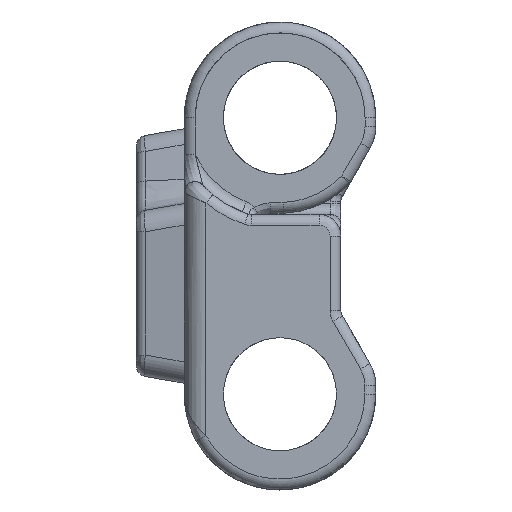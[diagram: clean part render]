
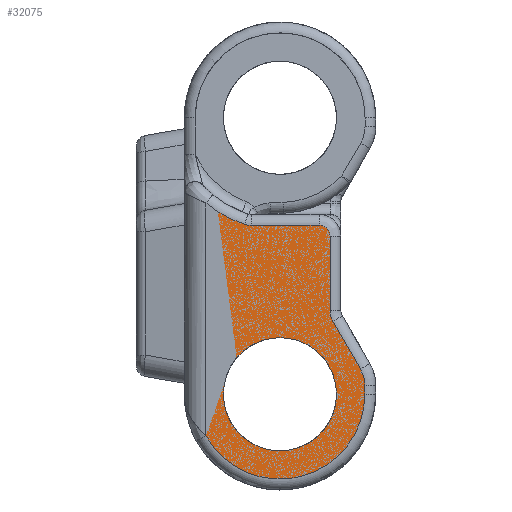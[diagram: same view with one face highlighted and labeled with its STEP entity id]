
A CAD part, left-side view. The second image highlights one B-rep face of the part: STEP entity #32075.
In plain terms, the highlighted planar face has unit normal (-1, 0, 0).
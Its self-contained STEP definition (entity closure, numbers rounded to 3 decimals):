
#15=CARTESIAN_POINT('',(0.,6.35,0.));
#16=DIRECTION('',(1.,0.,0.));
#17=DIRECTION('',(0.,0.,-1.));
#18=AXIS2_PLACEMENT_3D('',#15,#16,#17);
#20=CARTESIAN_POINT('',(0.,-6.501,0.));
#21=DIRECTION('',(-1.,0.,0.));
#22=DIRECTION('',(0.,0.767,0.642));
#23=AXIS2_PLACEMENT_3D('',#20,#21,#22);
#25=CARTESIAN_POINT('',(0.,-2.41,1.323));
#26=DIRECTION('',(-1.,0.,0.));
#27=DIRECTION('',(0.,0.951,0.308));
#28=AXIS2_PLACEMENT_3D('',#25,#26,#27);
#30=CARTESIAN_POINT('',(0.,-0.91,-1.8));
#31=DIRECTION('',(1.,0.,0.));
#32=DIRECTION('',(0.,-1.,0.));
#33=AXIS2_PLACEMENT_3D('',#30,#31,#32);
#35=CARTESIAN_POINT('',(0.,2.496,-3.3));
#36=DIRECTION('',(-1.,0.,0.));
#37=DIRECTION('',(0.,0.,1.));
#38=AXIS2_PLACEMENT_3D('',#35,#36,#37);
#40=DIRECTION('',(0.,0.866,-0.5));
#41=VECTOR('',#40,2.53);
#42=CARTESIAN_POINT('',(0.,2.996,-2.434));
#43=LINE('',#42,#41);
#44=CARTESIAN_POINT('',(0.,5.937,-2.4));
#45=DIRECTION('',(1.,0.,0.));
#46=DIRECTION('',(0.,-0.5,-0.866));
#47=AXIS2_PLACEMENT_3D('',#44,#45,#46);
#49=CARTESIAN_POINT('',(0.,6.35,0.));
#50=DIRECTION('',(-1.,0.,0.));
#51=DIRECTION('',(0.,-1.,0.));
#52=AXIS2_PLACEMENT_3D('',#49,#50,#51);
#54=CARTESIAN_POINT('',(0.,6.35,0.));
#55=DIRECTION('',(-1.,0.,0.));
#56=DIRECTION('',(0.,1.,0.));
#57=AXIS2_PLACEMENT_3D('',#54,#55,#56);
#74=DIRECTION('',(0.,-1.,0.));
#75=VECTOR('',#74,0.413);
#76=CARTESIAN_POINT('',(0.,6.35,-3.9));
#77=LINE('',#76,#75);
#116=DIRECTION('',(0.,-1.,0.));
#117=VECTOR('',#116,3.406);
#118=CARTESIAN_POINT('',(0.,2.496,-2.3));
#119=LINE('',#118,#117);
#139=DIRECTION('',(0.,0.,1.));
#140=VECTOR('',#139,3.123);
#141=CARTESIAN_POINT('',(0.,-1.41,-1.8));
#142=LINE('',#141,#140);
#215=DIRECTION('',(0.,1.,0.));
#216=VECTOR('',#215,10.696);
#217=CARTESIAN_POINT('',(0.,-2.436,
3.4));
#218=LINE('',#217,#216);
#28989=CARTESIAN_POINT('',(0.,6.35,-3.9));
#28990=CARTESIAN_POINT('',(0.,8.26,3.4));
#28991=VERTEX_POINT('',#28989);
#28992=VERTEX_POINT('',#28990);
#28993=CARTESIAN_POINT('',(0.,-2.436,
3.4));
#28994=VERTEX_POINT('',#28993);
#28995=CARTESIAN_POINT('',(0.,-1.459,1.631));
#28996=VERTEX_POINT('',#28995);
#28997=CARTESIAN_POINT('',(0.,-1.41,1.323));
#28998=VERTEX_POINT('',#28997);
#28999=CARTESIAN_POINT('',(0.,-1.41,-1.8));
#29000=VERTEX_POINT('',#28999);
#29001=CARTESIAN_POINT('',(0.,-0.91,-2.3));
#29002=VERTEX_POINT('',#29001);
#29003=CARTESIAN_POINT('',(0.,2.496,-2.3));
#29004=VERTEX_POINT('',#29003);
#29005=CARTESIAN_POINT('',(0.,2.996,-2.434));
#29006=VERTEX_POINT('',#29005);
#29007=CARTESIAN_POINT('',(0.,5.187,-3.699));
#29008=VERTEX_POINT('',#29007);
#29009=CARTESIAN_POINT('',(0.,5.937,-3.9));
#29010=VERTEX_POINT('',#29009);
#29011=CARTESIAN_POINT('',(0.,3.75,0.));
#29012=CARTESIAN_POINT('',(0.,8.95,0.));
#29013=VERTEX_POINT('',#29011);
#29014=VERTEX_POINT('',#29012);
#32040=CARTESIAN_POINT('',(0.,0.,0.));
#32041=DIRECTION('',(1.,0.,0.));
#32042=DIRECTION('',(0.,-1.,0.));
#32043=AXIS2_PLACEMENT_3D('',#32040,#32041,#32042);
#32044=PLANE('',#32043);
#32046=ORIENTED_EDGE('',*,*,#32045,.T.);
#32048=ORIENTED_EDGE('',*,*,#32047,.F.);
#32050=ORIENTED_EDGE('',*,*,#32049,.T.);
#32052=ORIENTED_EDGE('',*,*,#32051,.T.);
#32054=ORIENTED_EDGE('',*,*,#32053,.F.);
#32056=ORIENTED_EDGE('',*,*,#32055,.T.);
#32058=ORIENTED_EDGE('',*,*,#32057,.F.);
#32060=ORIENTED_EDGE('',*,*,#32059,.T.);
#32062=ORIENTED_EDGE('',*,*,#32061,.T.);
#32064=ORIENTED_EDGE('',*,*,#32063,.T.);
#32066=ORIENTED_EDGE('',*,*,#32065,.F.);
#32067=EDGE_LOOP('',(#32046,#32048,#32050,#32052,#32054,#32056,#32058,#32060,
#32062,#32064,#32066));
#32068=FACE_OUTER_BOUND('',#32067,.F.);
#32070=ORIENTED_EDGE('',*,*,#32069,.T.);
#32072=ORIENTED_EDGE('',*,*,#32071,.T.);
#32073=EDGE_LOOP('',(#32070,#32072));
#32074=FACE_BOUND('',#32073,.F.);
#32075=ADVANCED_FACE('',(#32068,#32074),#32044,.F.);
#19=CIRCLE('',#18,3.9);
#24=CIRCLE('',#23,5.3);
#29=CIRCLE('',#28,1.);
#34=CIRCLE('',#33,0.5);
#39=CIRCLE('',#38,1.);
#48=CIRCLE('',#47,1.5);
#53=CIRCLE('',#52,2.6);
#58=CIRCLE('',#57,2.6);
#32045=EDGE_CURVE('',#28991,#28992,#19,.T.);
#32047=EDGE_CURVE('',#28994,#28992,#218,.T.);
#32049=EDGE_CURVE('',#28994,#28996,#24,.T.);
#32051=EDGE_CURVE('',#28996,#28998,#29,.T.);
#32053=EDGE_CURVE('',#29000,#28998,#142,.T.);
#32055=EDGE_CURVE('',#29000,#29002,#34,.T.);
#32057=EDGE_CURVE('',#29004,#29002,#119,.T.);
#32059=EDGE_CURVE('',#29004,#29006,#39,.T.);
#32061=EDGE_CURVE('',#29006,#29008,#43,.T.);
#32063=EDGE_CURVE('',#29008,#29010,#48,.T.);
#32065=EDGE_CURVE('',#28991,#29010,#77,.T.);
#32069=EDGE_CURVE('',#29013,#29014,#53,.T.);
#32071=EDGE_CURVE('',#29014,#29013,#58,.T.);
